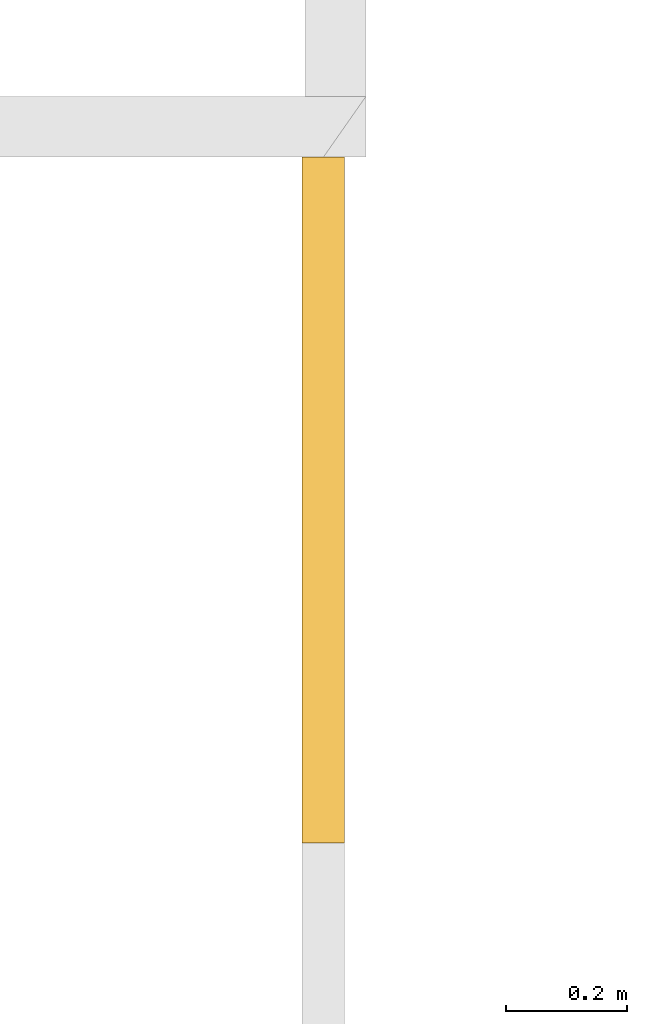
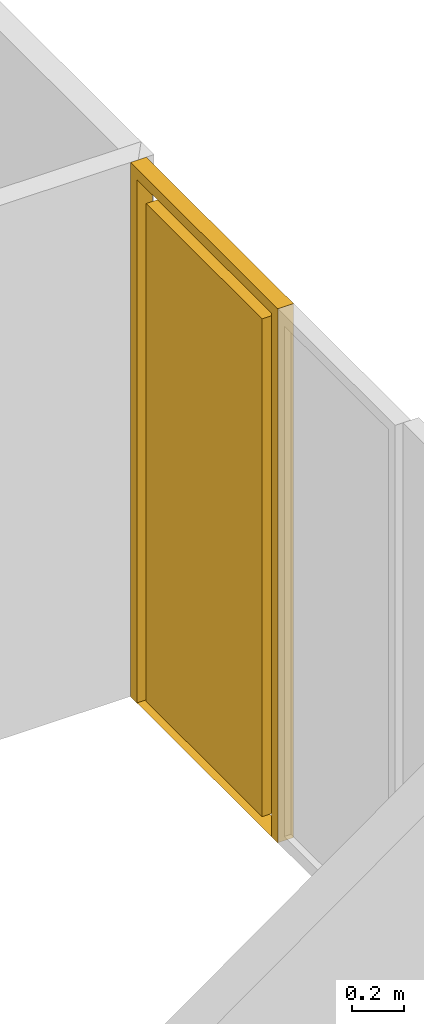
# One storey, part 33 of 51: 1 window.
"""IFC2X3 building model written with IfcOpenShell, lengths in metres."""

from ifc_helpers import new_model, entity, si_unit, converted_unit, derived_unit, direction, frame, origin, place, context, subcontext, project, spatial, faceted_brep, source, transform, mapped, material, type_object, type_shapes, element, save


model = new_model("IFC2X3")

# Units and contexts
model_context = context("Model", 3, precision=1e-05, world=origin(), true_north=direction((6.123031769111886e-17, 1.0)))
body_context = subcontext(model_context, "Body", "Model", "MODEL_VIEW")
ifc_project = project(units=[si_unit("LENGTHUNIT", "METRE"), si_unit("AREAUNIT", "SQUARE_METRE"), si_unit("VOLUMEUNIT", "CUBIC_METRE"), converted_unit("PLANEANGLEUNIT", "DEGREE", entity("IfcRatioMeasure", 0.017453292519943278), si_unit("PLANEANGLEUNIT", "RADIAN"), dimensions=[0, 0, 0, 0, 0, 0, 0]), si_unit("MASSUNIT", "GRAM", prefix="KILO"), derived_unit("MASSDENSITYUNIT", [(si_unit("MASSUNIT", "GRAM", prefix="KILO"), 1), (si_unit("LENGTHUNIT", "METRE"), -3)]), derived_unit("MOMENTOFINERTIAUNIT", [(si_unit("LENGTHUNIT", "METRE"), 4)]), si_unit("TIMEUNIT", "SECOND"), si_unit("FREQUENCYUNIT", "HERTZ"), si_unit("THERMODYNAMICTEMPERATUREUNIT", "DEGREE_CELSIUS"), derived_unit("THERMALTRANSMITTANCEUNIT", [(si_unit("MASSUNIT", "GRAM", prefix="KILO"), 1), (si_unit("THERMODYNAMICTEMPERATUREUNIT", "KELVIN"), -1), (si_unit("TIMEUNIT", "SECOND"), -3)]), derived_unit("THERMALCONDUCTANCEUNIT", [(si_unit("MASSUNIT", "GRAM", prefix="KILO"), 1), (si_unit("LENGTHUNIT", "METRE"), 1), (si_unit("THERMODYNAMICTEMPERATUREUNIT", "KELVIN"), -1), (si_unit("TIMEUNIT", "SECOND"), -3)]), derived_unit("VOLUMETRICFLOWRATEUNIT", [(si_unit("LENGTHUNIT", "METRE"), 3), (si_unit("TIMEUNIT", "SECOND"), -1)]), derived_unit("MASSFLOWRATEUNIT", [(si_unit("MASSUNIT", "GRAM", prefix="KILO"), 1), (si_unit("TIMEUNIT", "SECOND"), -1)]), derived_unit("ROTATIONALFREQUENCYUNIT", [(si_unit("TIMEUNIT", "SECOND"), -1)]), si_unit("ELECTRICCURRENTUNIT", "AMPERE"), si_unit("ELECTRICVOLTAGEUNIT", "VOLT"), si_unit("POWERUNIT", "WATT"), si_unit("FORCEUNIT", "NEWTON", prefix="KILO"), si_unit("ILLUMINANCEUNIT", "LUX"), si_unit("LUMINOUSFLUXUNIT", "LUMEN"), si_unit("LUMINOUSINTENSITYUNIT", "CANDELA"), derived_unit("USERDEFINED", [(si_unit("MASSUNIT", "GRAM", prefix="KILO"), -1), (si_unit("LENGTHUNIT", "METRE"), -2), (si_unit("TIMEUNIT", "SECOND"), 3), (si_unit("LUMINOUSFLUXUNIT", "LUMEN"), 1)]), derived_unit("USERDEFINED", [(si_unit("MASSUNIT", "GRAM", prefix="KILO"), 1), (si_unit("LENGTHUNIT", "METRE"), 3), (si_unit("TIMEUNIT", "SECOND"), -3), (si_unit("ELECTRICCURRENTUNIT", "AMPERE"), -2)]), derived_unit("USERDEFINED", [(si_unit("LENGTHUNIT", "METRE"), 2), (si_unit("TIMEUNIT", "SECOND"), -2)]), derived_unit("SOUNDPOWERUNIT", [(si_unit("MASSUNIT", "GRAM", prefix="KILO"), 1), (si_unit("LENGTHUNIT", "METRE"), 2), (si_unit("TIMEUNIT", "SECOND"), -3)]), derived_unit("SOUNDPRESSUREUNIT", [(si_unit("MASSUNIT", "GRAM", prefix="KILO"), 1), (si_unit("LENGTHUNIT", "METRE"), -1), (si_unit("TIMEUNIT", "SECOND"), -2)]), derived_unit("LINEARVELOCITYUNIT", [(si_unit("LENGTHUNIT", "METRE"), 1), (si_unit("TIMEUNIT", "SECOND"), -1)]), si_unit("PRESSUREUNIT", "PASCAL"), derived_unit("USERDEFINED", [(si_unit("LENGTHUNIT", "METRE"), -2), (si_unit("MASSUNIT", "GRAM", prefix="KILO"), 1), (si_unit("TIMEUNIT", "SECOND"), -2)]), derived_unit("LINEARFORCEUNIT", [(si_unit("MASSUNIT", "GRAM", prefix="KILO"), 1), (si_unit("LENGTHUNIT", "METRE"), 1), (si_unit("TIMEUNIT", "SECOND"), -2), (si_unit("LENGTHUNIT", "METRE"), -1)]), derived_unit("PLANARFORCEUNIT", [(si_unit("MASSUNIT", "GRAM", prefix="KILO"), 1), (si_unit("LENGTHUNIT", "METRE"), 1), (si_unit("TIMEUNIT", "SECOND"), -2), (si_unit("LENGTHUNIT", "METRE"), -2)]), derived_unit("SPECIFICHEATCAPACITYUNIT", [(si_unit("LENGTHUNIT", "METRE"), 2), (si_unit("TIMEUNIT", "SECOND"), -2), (si_unit("THERMODYNAMICTEMPERATUREUNIT", "KELVIN"), -1)]), derived_unit("VAPORPERMEABILITYUNIT", [(si_unit("TIMEUNIT", "SECOND"), 1), (si_unit("LENGTHUNIT", "METRE"), -1)]), derived_unit("DYNAMICVISCOSITYUNIT", [(si_unit("MASSUNIT", "GRAM", prefix="KILO"), 1), (si_unit("LENGTHUNIT", "METRE"), -1), (si_unit("TIMEUNIT", "SECOND"), -1)]), derived_unit("THERMALEXPANSIONCOEFFICIENTUNIT", [(si_unit("THERMODYNAMICTEMPERATUREUNIT", "KELVIN"), -1)])], contexts=[model_context])

# Site, building, storey
site_placement = place(None, origin())
site = spatial("IfcSite", under=ifc_project, at=site_placement, Name="Default", CompositionType="ELEMENT")
building_placement = place(site_placement, origin())
building = spatial("IfcBuilding", under=site, at=building_placement, CompositionType="ELEMENT")
storey_placement = place(building_placement, frame((0.0, 0.0, 3.06)))
storey = spatial("IfcBuildingStorey", under=building, at=storey_placement, Name="ÉTAGE", CompositionType="ELEMENT", Elevation=3.06)

# Window
ifc_material = material(Name="Transp. - Verre clair (rapide)")
window_style = type_object("IfcWindowStyle", Name="Fen-003", ConstructionType="NOTDEFINED", OperationType="NOTDEFINED", ParameterTakesPrecedence=False, Sizeable=False, material=ifc_material)
shared_shape = source(origin(), body_context, "Body", "Brep", [
    faceted_brep([(0.0, -0.1407, 0.0), (0.0, -0.0707, 0.0), (1.1299999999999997, -0.0707, 0.0), (1.1299999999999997, -0.1407, 0.0), (0.0, -0.1407, 2.499999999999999), (0.0, -0.0707, 2.499999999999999), (1.1299999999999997, -0.0707, 2.499999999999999), (0.05, -0.0707, 0.0), (1.08, -0.0707, 0.0), (1.08, -0.0707, 2.4499999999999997), (0.05, -0.0707, 2.4499999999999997), (1.1299999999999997, -0.1407, 2.499999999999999), (0.05, -0.1407, 0.0), (0.05, -0.1407, 2.4499999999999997), (1.08, -0.1407, 2.4499999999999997), (1.08, -0.1407, 0.0), (1.01, -0.1407, 2.3799999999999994), (1.01, -0.1407, 0.04999999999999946), (0.12, -0.1407, 0.04999999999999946), (0.12, -0.1407, 2.3799999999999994), (1.01, -0.0707, 2.3799999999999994), (1.01, -0.0707, 0.04999999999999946), (0.12, -0.0707, 0.04999999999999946), (0.12, -0.0707, 2.3799999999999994), (0.05, -0.1057, 2.4499999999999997), (0.05, -0.1057, 0.0), (1.08, -0.1057, 2.4499999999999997), (1.08, -0.1057, 0.0), (0.12, -0.1107, 0.04999999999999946), (0.12, -0.1007, 0.04999999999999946), (1.01, -0.1007, 0.04999999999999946), (1.01, -0.1107, 0.04999999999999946), (0.12, -0.1107, 2.3799999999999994), (0.12, -0.1007, 2.3799999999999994), (1.01, -0.1007, 2.3799999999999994), (1.01, -0.1107, 2.3799999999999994)], [[[0, 1, 2, 3]], [[4, 5, 1, 0]], [[1, 5, 6, 2], [7, 8, 9, 10]], [[3, 2, 6, 11]], [[0, 3, 11, 4], [12, 13, 14, 15]], [[11, 6, 5, 4]], [[15, 8, 7, 12]], [[14, 9, 8, 15]], [[13, 10, 9, 14]], [[12, 7, 10, 13]], [[14, 13, 12, 15], [16, 17, 18, 19]], [[14, 9, 10, 13]], [[10, 7, 12, 13]], [[7, 8, 15, 12]], [[15, 8, 9, 14]], [[16, 20, 21, 17]], [[21, 22, 18, 17]], [[22, 23, 19, 18]], [[19, 23, 20, 16]], [[10, 9, 8, 7], [21, 20, 23, 22]], [[12, 13, 24, 25]], [[15, 14, 26, 27]], [[12, 15, 27, 25]], [[13, 14, 26, 24]], [[25, 24, 10, 7]], [[27, 26, 9, 8]], [[25, 27, 8, 7]], [[24, 26, 9, 10]], [[28, 29, 30, 31]], [[32, 33, 29, 28]], [[29, 33, 34, 30]], [[31, 30, 34, 35]], [[28, 31, 35, 32]], [[35, 34, 33, 32]]]),
])
type_shapes(window_style, [shared_shape])
window_placement = place(storey_placement, frame((347.026452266, 13.9372095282, 1.2099999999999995), z_axis=(0.0, 0.0, 1.0), x_axis=(0.0, -1.0, 0.0)))
element("IfcWindow", 1, at=window_placement, inside=storey, type_object=window_style, material=ifc_material, Name="Fen-003 803126:Fen-003 803126", ObjectType="Fen-003 803126:Fen-003 803126", OverallHeight=2.5, OverallWidth=1.1299999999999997, context=body_context, shape_type="MappedRepresentation", body=[
    mapped(shared_shape, transform((0.0, 0.0, 0.0), scale=1.0)),
])

save(model, "model.ifc")
